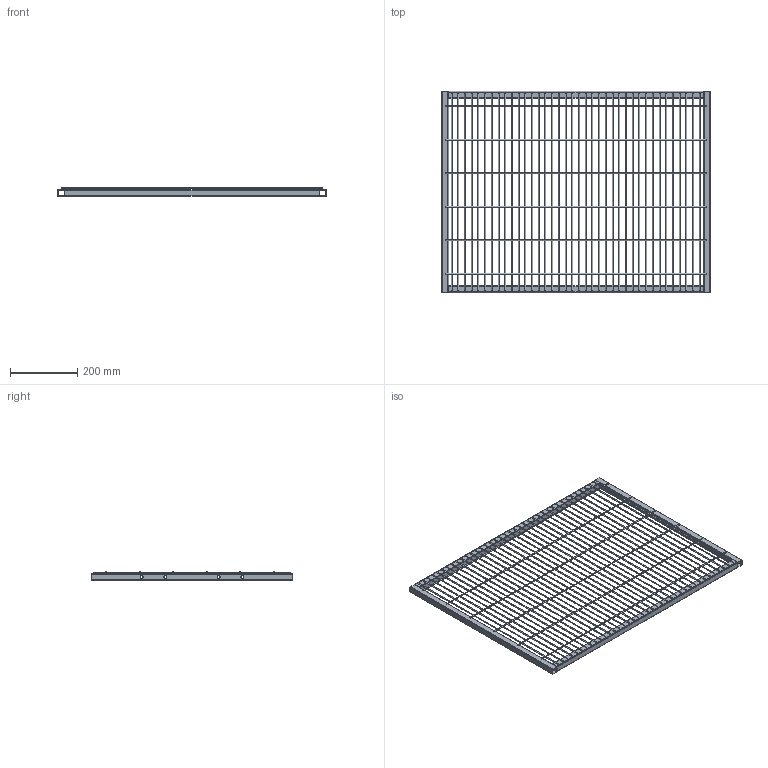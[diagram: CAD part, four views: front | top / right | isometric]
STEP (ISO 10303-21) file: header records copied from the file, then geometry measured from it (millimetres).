
FILE_DESCRIPTION (( 'STEP AP203' ), '1' );
FILE_NAME ('Framed Panel 800 x 600.STEP', '2023-09-15T16:53:59', ( '' ), ( '' ), 'SwSTEP 2.0', 'SolidWorks 2023', '' );
FILE_SCHEMA (( 'CONFIG_CONTROL_DESIGN' ));
Length unit declared in the file: millimetre
Products named in the file (1): Framed Panel 800 x 600
Bounding box: 800 x 600 x 26 mm (x, y, z)
Volume: 483516.5 mm3; surface area: 646776.1 mm2
Topology: 48 solids, 48 shells, 280 faces, 552 edges, 368 vertices
Faces by surface type: cylinder 152, plane 128
Entity records: 7403 total; most frequent: DIRECTION 1418, CARTESIAN_POINT 1201, ORIENTED_EDGE 1104, AXIS2_PLACEMENT_3D 585, EDGE_CURVE 552, VERTEX_POINT 368, EDGE_LOOP 320, CIRCLE 304
